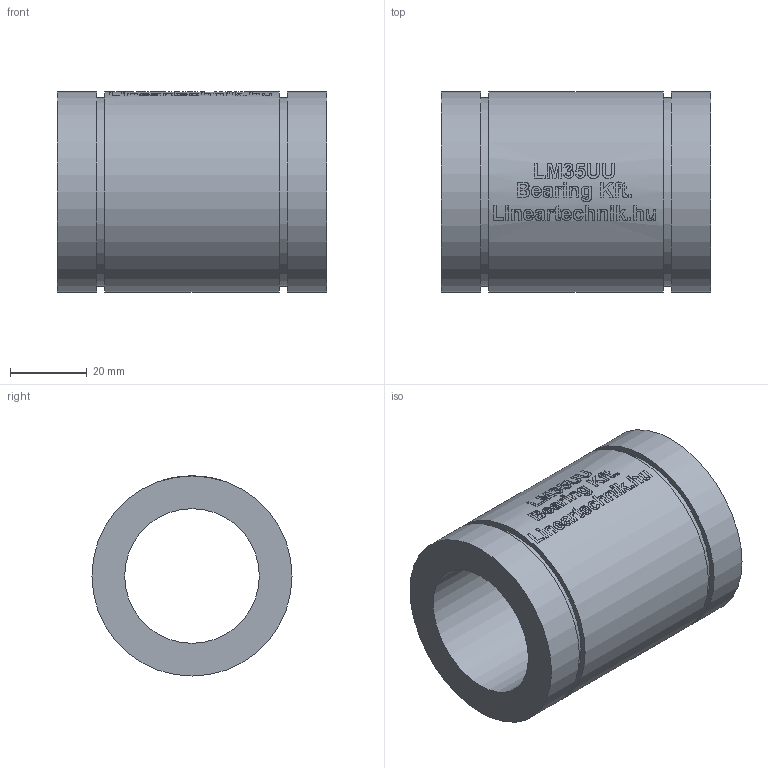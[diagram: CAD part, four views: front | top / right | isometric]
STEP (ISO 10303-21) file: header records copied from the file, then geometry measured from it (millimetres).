
FILE_DESCRIPTION(/* description */ ('Huosing for flange nuts'),/* implementation_level */ '2;1');
FILE_NAME(/* name */ 'LM35UU',/* time_stamp */ '2019-05-07T14:08:18+02:00',/* author */ ('VĂ©gh MĂˇtĂ©'),/* organization */ ('Bearing Kft'),/* preprocessor_version */ 'ST-DEVELOPER v16.7',/* originating_system */ 'DEX',/* authorisation */ $);
FILE_SCHEMA (('AUTOMOTIVE_DESIGN {1 0 10303 214 3 1 1}'));
Length unit declared in the file: millimetre
Products named in the file (1): LM35UU
Bounding box: 70 x 52 x 52 mm (x, y, z)
Volume: 80295.3 mm3; surface area: 22416.4 mm2
Topology: 1 solids, 1 shells, 305 faces, 768 edges, 513 vertices
Faces by surface type: plane 154, bspline 101, cylinder 50
Full cylindrical faces by diameter (mm): 35 x1, 49 x2, 52 x3
Entity records: 18820 total; most frequent: CARTESIAN_POINT 12045, ORIENTED_EDGE 1518, DIRECTION 1102, EDGE_CURVE 759, VERTEX_POINT 511, LINE 414, VECTOR 414, EDGE_LOOP 362
